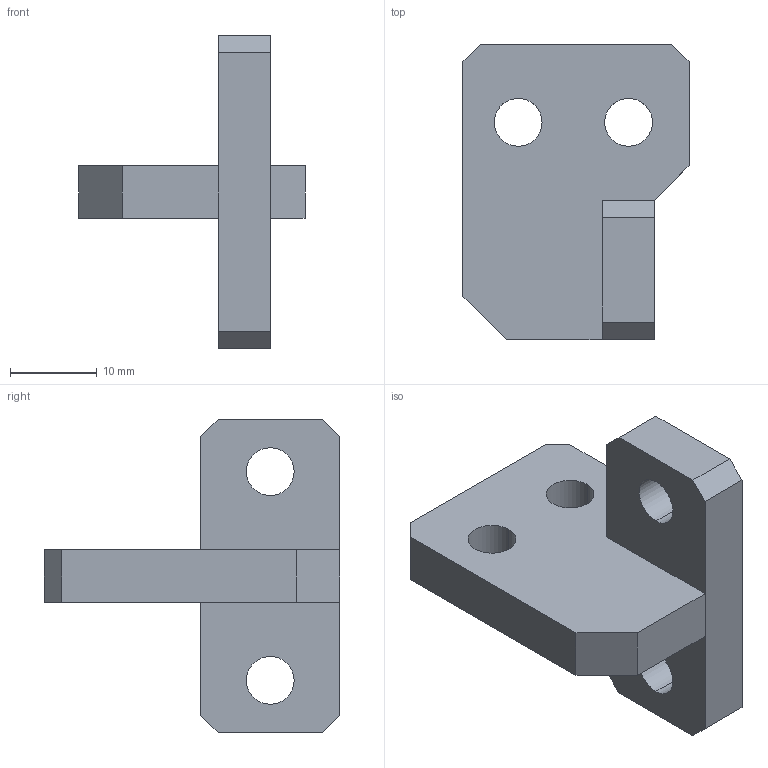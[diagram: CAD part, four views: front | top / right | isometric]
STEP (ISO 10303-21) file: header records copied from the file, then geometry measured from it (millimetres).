
FILE_DESCRIPTION (( 'STEP AP214' ), '1' );
FILE_NAME ('GZ29.20_V1肘夹固定板.STEP', '2021-07-06T08:23:57', ( '微软中国' ), ( 'Microsoft' ), 'SwSTEP 2.0', 'SolidWorks 2017', '' );
FILE_SCHEMA (( 'AUTOMOTIVE_DESIGN' ));
Length unit declared in the file: millimetre
Products named in the file (1): GZ29.20_V1紵標嘐隅啣
Bounding box: 26 x 34 x 36 mm (x, y, z)
Volume: 7034.8 mm3; surface area: 4029.8 mm2
Topology: 2 solids, 2 shells, 30 faces, 78 edges, 52 vertices
Faces by surface type: plane 22, cylinder 8
Entity records: 977 total; most frequent: CARTESIAN_POINT 161, DIRECTION 156, ORIENTED_EDGE 156, EDGE_CURVE 78, LINE 62, VECTOR 62, VERTEX_POINT 52, AXIS2_PLACEMENT_3D 47
